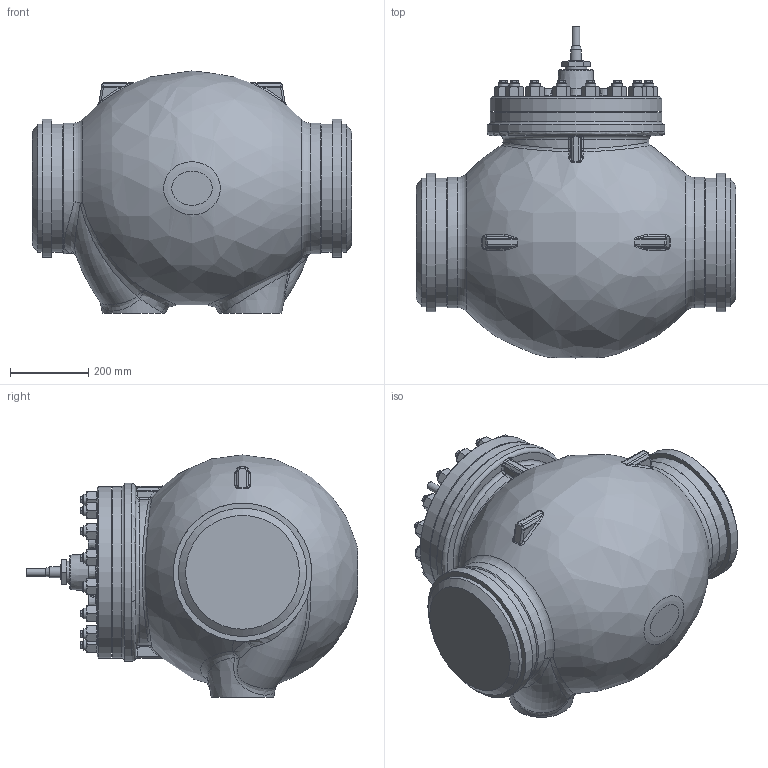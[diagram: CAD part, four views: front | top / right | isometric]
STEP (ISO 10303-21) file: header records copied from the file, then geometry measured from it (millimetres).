
FILE_DESCRIPTION(/* description */ (''),/* implementation_level */ '2;1');
FILE_NAME(/* name */ 'RV3xx_DN300_SP_privarovaci.stp',/* time_stamp */ '2014-09-25T06:18:03+02:00',/* author */ (''),/* organization */ ('LDM'),/* preprocessor_version */ 'ST-DEVELOPER v11',/* originating_system */ 'SIEMENS PLM Software NX 7.0',/* authorisation */ '');
FILE_SCHEMA (('CONFIG_CONTROL_DESIGN'));
Length unit declared in the file: millimetre
Products named in the file (1): adam1C36fvja
Bounding box: 819 x 851 x 621 mm (x, y, z)
Volume: 167688841.3 mm3; surface area: 2209851.1 mm2
Topology: 1 solids, 17 shells, 1567 faces, 3697 edges, 2221 vertices
Faces by surface type: plane 729, cone 394, cylinder 187, bspline 133, torus 62, extrusion 46, sphere 16
Full cylindrical faces by diameter (mm): 14.376 x2, 17.97 x4, 20 x1, 21.5 x15, 24 x16, 27 x32, 28 x1, 30 x16, 39 x1, 41 x32, 56 x1, 326 x1, 329 x4, 335 x2, 355 x2, 440 x2, 456 x1
Entity records: 47198 total; most frequent: CARTESIAN_POINT 16157, ORIENTED_EDGE 6400, DIRECTION 5776, EDGE_CURVE 3200, AXIS2_PLACEMENT_3D 2453, VERTEX_POINT 2038, EDGE_LOOP 1946, ADVANCED_FACE 1566
